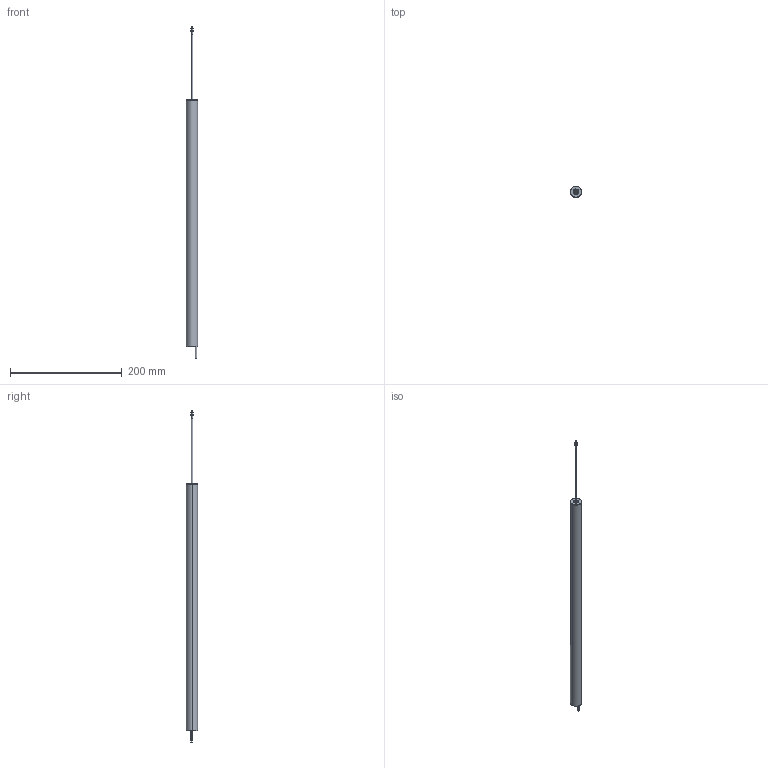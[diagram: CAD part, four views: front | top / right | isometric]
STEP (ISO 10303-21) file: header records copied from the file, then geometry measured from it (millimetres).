
FILE_DESCRIPTION(('STEP AP203'),'1');
FILE_NAME('C:/TPO v2/SharedFS/Outgoing/burster_8740-5150_495hmxr9hvnd14l5ampxwpw04.stp','2013-08-26T20:16:57',('TraceParts'),('TraceParts S.A.'),'XStep 1.0',' ',' ');
FILE_SCHEMA(('CONFIG_CONTROL_DESIGN'));
Length unit declared in the file: millimetre
Products named in the file (4): 1; 2; 3; 4
Bounding box: 19.83 x 19.83 x 593 mm (x, y, z)
Volume: 134983.8 mm3; surface area: 38685.1 mm2
Topology: 4 solids, 7 shells, 98 faces, 210 edges, 133 vertices
Faces by surface type: cylinder 36, plane 34, cone 22, torus 6
Entity records: 2836 total; most frequent: DIRECTION 502, CARTESIAN_POINT 491, ORIENTED_EDGE 416, AXIS2_PLACEMENT_3D 216, EDGE_CURVE 208, VERTEX_POINT 133, EDGE_LOOP 117, CIRCLE 114
